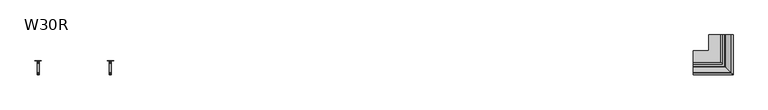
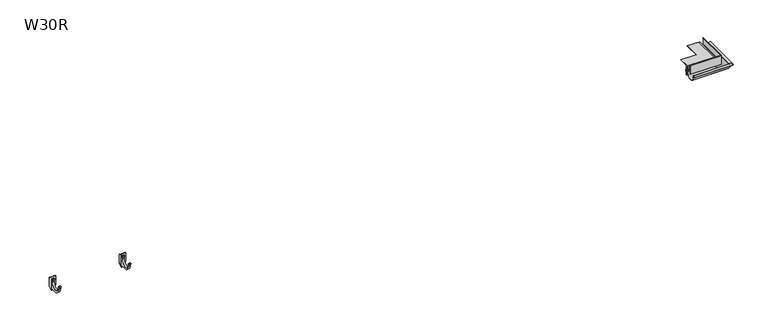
"""IFC4 building model written with IfcOpenShell, lengths in millimetres: proxy geometry, W30R Profil okapowy prosty z rynną : W30R."""

from ifc_helpers import new_model, si_unit, frame, origin, place, context, project, spatial, polyline, circle_curve, ellipse_curve, source, transform, mapped, element, save
from ifc_brep_helpers import plane_surface, cylinder_surface, revolved_surface, advanced_brep


def w30r_a8d028da(model_context):
    return source(origin(), model_context, "Body", "AdvancedBrep", [
        advanced_brep(
        [(806.4889281, -43.253125, -67.3579557), (806.4889281, 31.746875, -67.3579557), (806.4889281, 33.746875, -48.4650699), (806.4889281, 28.3326614, -49.0508489), (806.4889281, 26.9184479, -50.4650625), (806.4889281, 25.5042343, -49.0508489), (806.4889281, 26.9184479, -47.6366354), (806.4889281, 29.746875, -46.4650625), (806.4889281, 39.746875, -46.4650625), (806.4889281, 39.746875, -121.4650625), (806.4889281, -11.253125, -121.4654849), (806.4889281, -45.753125, -76.6748546), (806.4889281, -45.753125, -62.0548341), (806.4889281, -45.753125, -58.4654849), (806.4889281, -54.253125, -58.4654849), (806.4889281, -54.253125, -56.4654849), (806.4889281, -44.253125, -56.4654849), (806.4889281, -43.253125, -57.4654849), (821.4889281, -43.253125, -67.3579557), (821.4889281, -43.253125, -57.4654849), (821.4889281, -44.253125, -56.4654849), (821.4889281, -54.253125, -56.4654849), (821.4889281, -54.253125, -58.4654849), (821.4889281, -45.753125, -58.4654849), (821.4889281, -45.753125, -62.0548341), (821.4889281, -45.753125, -76.6748546), (821.4889281, -11.253125, -121.4654849), (821.4889281, 39.746875, -121.4650625), (821.4889281, 39.746875, -46.4650625), (821.4889281, 29.746875, -46.4650625), (821.4889281, 26.9184479, -47.6366354), (821.4889281, 25.5042343, -49.0508489), (821.4889281, 26.9184479, -50.4650625), (821.4889281, 28.3326614, -49.0508489), (821.4889281, 33.746875, -48.4650699), (821.4889281, 31.746875, -67.3579557), (833.4889281, 39.746875, -33.4650625), (794.4889281, 39.746875, -33.4650625), (791.4889281, 39.746875, -36.4650625), (791.4889281, 39.746875, -98.4650625), (805.7196973, 39.746875, -132.6189087), (808.4889281, 39.746875, -134.4650625), (819.4889281, 39.746875, -134.4650625), (822.2581588, 39.746875, -132.6189087), (836.4889281, 39.746875, -98.4650625), (836.4889281, 39.746875, -36.4650625), (833.4889281, 41.746875, -33.4650625), (836.4889281, 41.746875, -36.4650625), (836.4889281, 41.746875, -98.4650625), (822.2581588, 41.746875, -132.6189087), (819.4889281, 41.746875, -134.4650625), (808.4889281, 41.746875, -134.4650625), (805.7196973, 41.746875, -132.6189087), (791.4889281, 41.746875, -98.4650625), (791.4889281, 41.746875, -36.4650625), (794.4889281, 41.746875, -33.4650625)],
        [
            (0, 1, circle_curve(frame((806.4889281, -5.753125, -67.3579557), z_axis=(1.0, 0.0, 0.0), x_axis=(0.0, -1.0, 0.0)), 37.5)),
            (1, 2),
            (2, 3, circle_curve(frame((806.4889281, 32.9075381, -66.0213045), z_axis=(1.0, 0.0, 0.0), x_axis=(0.0, -1.0, 0.0)), 17.5762868)),
            (3, 4),
            (4, 5, circle_curve(frame((806.4889281, 26.2113411, -49.7579557), z_axis=(-1.0, 0.0, 0.0), x_axis=(0.0, -1.0, 0.0)), 1.0)),
            (5, 6),
            (6, 7, circle_curve(frame((806.4889281, 29.746875, -50.4650625), z_axis=(-1.0, 0.0, 0.0), x_axis=(0.0, -1.0, 0.0)), 4.0)),
            (7, 8),
            (8, 9),
            (9, 10),
            (10, 11, circle_curve(frame((806.4889281, 6.9272146, -71.7799373), z_axis=(-1.0, 0.0, 0.0), x_axis=(0.0, -1.0, 0.0)), 52.9072622)),
            (11, 12),
            (12, 13),
            (13, 14),
            (14, 15, circle_curve(frame((806.4889281, -54.253125, -57.4654849), z_axis=(-1.0, 0.0, 0.0), x_axis=(0.0, -1.0, 0.0)), 1.0)),
            (15, 16),
            (16, 17, circle_curve(frame((806.4889281, -44.253125, -57.4654849), z_axis=(-1.0, 0.0, 0.0), x_axis=(0.0, -1.0, 0.0)), 1.0)),
            (17, 0),
            (18, 19),
            (19, 20, circle_curve(frame((821.4889281, -44.253125, -57.4654849), z_axis=(1.0, 0.0, 0.0), x_axis=(0.0, -1.0, 0.0)), 1.0)),
            (20, 21),
            (21, 22, circle_curve(frame((821.4889281, -54.253125, -57.4654849), z_axis=(1.0, 0.0, 0.0), x_axis=(0.0, -1.0, 0.0)), 1.0)),
            (22, 23),
            (23, 24),
            (24, 25),
            (25, 26, circle_curve(frame((821.4889281, 6.9272146, -71.7799373), z_axis=(1.0, 0.0, 0.0), x_axis=(0.0, -1.0, 0.0)), 52.9072622)),
            (26, 27),
            (27, 28),
            (28, 29),
            (29, 30, circle_curve(frame((821.4889281, 29.746875, -50.4650625), z_axis=(1.0, 0.0, 0.0), x_axis=(0.0, -1.0, 0.0)), 4.0)),
            (30, 31),
            (31, 32, circle_curve(frame((821.4889281, 26.2113411, -49.7579557), z_axis=(1.0, 0.0, 0.0), x_axis=(0.0, -1.0, 0.0)), 1.0)),
            (32, 33),
            (33, 34, circle_curve(frame((821.4889281, 32.9075381, -66.0213045), z_axis=(-1.0, 0.0, 0.0), x_axis=(0.0, -1.0, 0.0)), 17.5762868)),
            (34, 35),
            (35, 18, circle_curve(frame((821.4889281, -5.753125, -67.3579557), z_axis=(-1.0, 0.0, 0.0), x_axis=(0.0, -1.0, 0.0)), 37.5)),
            (17, 19),
            (18, 0),
            (16, 20),
            (15, 21),
            (14, 22),
            (13, 23),
            (12, 24),
            (11, 25),
            (10, 26),
            (9, 27),
            (7, 29),
            (28, 8),
            (6, 30),
            (5, 31),
            (4, 32),
            (3, 33),
            (2, 34),
            (1, 35),
            (36, 37),
            (37, 38, circle_curve(frame((794.4889281, 39.746875, -36.4650625), z_axis=(0.0, -1.0, 0.0), x_axis=(1.0, 0.0, 0.0)), 3.0)),
            (38, 39),
            (39, 40),
            (40, 41, circle_curve(frame((808.4889281, 39.746875, -131.4650625), z_axis=(0.0, -1.0, 0.0), x_axis=(1.0, 0.0, 0.0)), 3.0)),
            (41, 42),
            (42, 43, circle_curve(frame((819.4889281, 39.746875, -131.4650625), z_axis=(0.0, -1.0, 0.0), x_axis=(1.0, 0.0, 0.0)), 3.0)),
            (43, 44),
            (44, 45),
            (45, 36, circle_curve(frame((833.4889281, 39.746875, -36.4650625), z_axis=(0.0, -1.0, 0.0), x_axis=(1.0, 0.0, 0.0)), 3.0)),
            (46, 47, circle_curve(frame((833.4889281, 41.746875, -36.4650625), z_axis=(0.0, 1.0, 0.0), x_axis=(1.0, 0.0, 0.0)), 3.0)),
            (47, 48),
            (48, 49),
            (49, 50, circle_curve(frame((819.4889281, 41.746875, -131.4650625), z_axis=(0.0, 1.0, 0.0), x_axis=(1.0, 0.0, 0.0)), 3.0)),
            (50, 51),
            (51, 52, circle_curve(frame((808.4889281, 41.746875, -131.4650625), z_axis=(0.0, 1.0, 0.0), x_axis=(1.0, 0.0, 0.0)), 3.0)),
            (52, 53),
            (53, 54),
            (54, 55, circle_curve(frame((794.4889281, 41.746875, -36.4650625), z_axis=(0.0, 1.0, 0.0), x_axis=(1.0, 0.0, 0.0)), 3.0)),
            (55, 46),
            (36, 46),
            (55, 37),
            (54, 38),
            (53, 39),
            (52, 40),
            (51, 41),
            (50, 42),
            (49, 43),
            (48, 44),
            (47, 45),
        ],
        [
            plane_surface(frame((806.4889281, -43.253125, -57.4654849), z_axis=(-1.0, 0.0, 0.0), x_axis=(0.0, 0.0, -1.0))),
            plane_surface(frame((821.4889281, -43.253125, -57.4654849), z_axis=(1.0, 0.0, 0.0), x_axis=(0.0, 0.0, 1.0))),
            plane_surface(frame((821.4889281, -43.253125, -67.3579557), z_axis=(0.0, 1.0, 0.0), x_axis=(-1.0, 0.0, 0.0))),
            cylinder_surface(frame((806.4889281, -44.253125, -57.4654849), z_axis=(1.0, 0.0, 0.0), x_axis=(0.0, -1.0, 0.0)), 1.0),
            plane_surface(frame((821.4889281, -44.253125, -56.4654849), z_axis=(0.0, 0.0, 1.0), x_axis=(-1.0, 0.0, 0.0))),
            cylinder_surface(frame((806.4889281, -54.253125, -57.4654849), z_axis=(1.0, 0.0, 0.0), x_axis=(0.0, -1.0, 0.0)), 1.0),
            plane_surface(frame((821.4889281, -54.253125, -58.4654849), z_axis=(0.0, 0.0, -1.0), x_axis=(-1.0, 0.0, 0.0))),
            plane_surface(frame((821.4889281, -45.753125, -58.4654849), z_axis=(0.0, -1.0, 0.0), x_axis=(-1.0, 0.0, 0.0))),
            plane_surface(frame((821.4889281, -45.753125, -62.0548341), z_axis=(0.0, -1.0, 0.0), x_axis=(-1.0, 0.0, 0.0))),
            cylinder_surface(frame((806.4889281, 6.9272146, -71.7799373), z_axis=(1.0, 0.0, 0.0), x_axis=(0.0, -1.0, 0.0)), 52.9072622),
            plane_surface(frame((821.4889281, -11.253125, -121.4654849), z_axis=(0.0, 8.283194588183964e-06, -0.9999999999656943), x_axis=(-1.0, 0.0, 0.0))),
            plane_surface(frame((821.4889281, 40.7901639, -46.4650625), z_axis=(0.0, 0.0, 1.0), x_axis=(-1.0, 0.0, 0.0))),
            cylinder_surface(frame((806.4889281, 29.746875, -50.4650625), z_axis=(1.0, 0.0, 0.0), x_axis=(0.0, -1.0, 0.0)), 4.0),
            plane_surface(frame((821.4889281, 26.9184479, -47.6366354), z_axis=(0.0, -0.7071067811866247, 0.7071067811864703), x_axis=(-1.0, 0.0, 0.0))),
            cylinder_surface(frame((806.4889281, 26.2113411, -49.7579557), z_axis=(1.0, 0.0, 0.0), x_axis=(0.0, -1.0, 0.0)), 1.0),
            plane_surface(frame((821.4889281, 26.9184479, -50.4650625), z_axis=(0.0, 0.7071067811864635, -0.7071067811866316), x_axis=(-1.0, 0.0, 0.0))),
            revolved_surface(polyline([(806.4889281, 15.331251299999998, -66.0213045), (821.4889281, 15.331251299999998, -66.0213045)]), (806.4889281, 32.9075381, -66.0213045), (-1.0, 0.0, 0.0)),
            plane_surface(frame((821.4889281, 33.746875, -48.4650699), z_axis=(0.0, -0.9944434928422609, 0.10527174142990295), x_axis=(-1.0, 0.0, 0.0))),
            revolved_surface(polyline([(806.4889281, -43.253125, -67.3579557), (821.4889281, -43.253125, -67.3579557)]), (806.4889281, -5.753125, -67.3579557), (-1.0, 0.0, 0.0)),
            plane_surface(frame((794.4889281, 39.746875, -33.4650625), z_axis=(0.0, -1.0, 0.0), x_axis=(-1.0, 0.0, 0.0))),
            plane_surface(frame((794.4889281, 41.746875, -33.4650625), z_axis=(0.0, 1.0, 0.0), x_axis=(1.0, 0.0, 0.0))),
            plane_surface(frame((833.4889281, 39.746875, -33.4650625), z_axis=(0.0, 0.0, 1.0), x_axis=(0.0, 1.0, 0.0))),
            cylinder_surface(frame((794.4889281, 41.746875, -36.4650625), z_axis=(0.0, -1.0, 0.0), x_axis=(1.0, 0.0, 0.0)), 3.0),
            plane_surface(frame((791.4889281, 39.746875, -36.4650625), z_axis=(-1.0, 0.0, 0.0), x_axis=(0.0, 1.0, 0.0))),
            plane_surface(frame((791.4889281, 39.746875, -98.4650625), z_axis=(-0.9230769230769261, 0.0, -0.38461538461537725), x_axis=(0.0, 1.0, 0.0))),
            cylinder_surface(frame((808.4889281, 41.746875, -131.4650625), z_axis=(0.0, -1.0, 0.0), x_axis=(1.0, 0.0, 0.0)), 3.0),
            plane_surface(frame((808.4889281, 39.746875, -134.4650625), z_axis=(0.0, 0.0, -1.0), x_axis=(0.0, 1.0, 0.0))),
            cylinder_surface(frame((819.4889281, 41.746875, -131.4650625), z_axis=(0.0, -1.0, 0.0), x_axis=(1.0, 0.0, 0.0)), 3.0),
            plane_surface(frame((822.2581588, 39.746875, -132.6189087), z_axis=(0.9230769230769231, 0.0, -0.3846153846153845), x_axis=(0.0, 1.0, 0.0))),
            plane_surface(frame((836.4889281, 39.746875, -98.4650625), z_axis=(1.0, 0.0, 0.0), x_axis=(0.0, 1.0, 0.0))),
            cylinder_surface(frame((833.4889281, 41.746875, -36.4650625), z_axis=(0.0, -1.0, 0.0), x_axis=(1.0, 0.0, 0.0)), 3.0),
        ],
        [
            (0, [[1, 2, 3, 4, 5, 6, 7, 8, 9, 10, 11, 12, 13, 14, 15, 16, 17, 18]]),
            (1, [[19, 20, 21, 22, 23, 24, 25, 26, 27, 28, 29, 30, 31, 32, 33, 34, 35, 36]]),
            (2, [[-18, 37, -19, 38]]),
            (3, [[-17, 39, -20, -37]]),
            (4, [[-16, 40, -21, -39]]),
            (5, [[-15, 41, -22, -40]]),
            (6, [[-14, 42, -23, -41]]),
            (7, [[-13, 43, -24, -42]]),
            (8, [[-12, 44, -25, -43]]),
            (9, [[-11, 45, -26, -44]]),
            (10, [[-45, -10, 46, -27]]),
            (11, [[47, -29, 48, -8]]),
            (12, [[-7, 49, -30, -47]]),
            (13, [[-6, 50, -31, -49]]),
            (14, [[-5, 51, -32, -50]]),
            (15, [[-4, 52, -33, -51]]),
            (16, [[-3, 53, -34, -52]]),
            (17, [[-2, 54, -35, -53]]),
            (18, [[-1, -38, -36, -54]]),
            (19, [[55, 56, 57, 58, 59, 60, 61, 62, 63, 64], [-9, -48, -28, -46]]),
            (20, [[65, 66, 67, 68, 69, 70, 71, 72, 73, 74]]),
            (21, [[-55, 75, -74, 76]]),
            (22, [[-56, -76, -73, 77]]),
            (23, [[-57, -77, -72, 78]]),
            (24, [[-58, -78, -71, 79]]),
            (25, [[-59, -79, -70, 80]]),
            (26, [[-60, -80, -69, 81]]),
            (27, [[-61, -81, -68, 82]]),
            (28, [[-62, -82, -67, 83]]),
            (29, [[-63, -83, -66, 84]]),
            (30, [[-64, -84, -65, -75]]),
        ],
    ),
        advanced_brep(
        [(306.4889281, -43.253125, -67.3579557), (306.4889281, 31.746875, -67.3579557), (306.4889281, 33.746875, -48.4650699), (306.4889281, 28.3326614, -49.0508489), (306.4889281, 26.9184479, -50.4650625), (306.4889281, 25.5042343, -49.0508489), (306.4889281, 26.9184479, -47.6366354), (306.4889281, 29.746875, -46.4650625), (306.4889281, 39.746875, -46.4650625), (306.4889281, 39.746875, -121.4650625), (306.4889281, -11.253125, -121.4654849), (306.4889281, -45.753125, -76.6748546), (306.4889281, -45.753125, -62.0548341), (306.4889281, -45.753125, -58.4654849), (306.4889281, -54.253125, -58.4654849), (306.4889281, -54.253125, -56.4654849), (306.4889281, -44.253125, -56.4654849), (306.4889281, -43.253125, -57.4654849), (321.4889281, -43.253125, -67.3579557), (321.4889281, -43.253125, -57.4654849), (321.4889281, -44.253125, -56.4654849), (321.4889281, -54.253125, -56.4654849), (321.4889281, -54.253125, -58.4654849), (321.4889281, -45.753125, -58.4654849), (321.4889281, -45.753125, -62.0548341), (321.4889281, -45.753125, -76.6748546), (321.4889281, -11.253125, -121.4654849), (321.4889281, 39.746875, -121.4650625), (321.4889281, 39.746875, -46.4650625), (321.4889281, 29.746875, -46.4650625), (321.4889281, 26.9184479, -47.6366354), (321.4889281, 25.5042343, -49.0508489), (321.4889281, 26.9184479, -50.4650625), (321.4889281, 28.3326614, -49.0508489), (321.4889281, 33.746875, -48.4650699), (321.4889281, 31.746875, -67.3579557), (333.4889281, 39.746875, -33.4650625), (294.4889281, 39.746875, -33.4650625), (291.4889281, 39.746875, -36.4650625), (291.4889281, 39.746875, -98.4650625), (305.7196973, 39.746875, -132.6189087), (308.4889281, 39.746875, -134.4650625), (319.4889281, 39.746875, -134.4650625), (322.2581588, 39.746875, -132.6189087), (336.4889281, 39.746875, -98.4650625), (336.4889281, 39.746875, -36.4650625), (333.4889281, 41.746875, -33.4650625), (336.4889281, 41.746875, -36.4650625), (336.4889281, 41.746875, -98.4650625), (322.2581588, 41.746875, -132.6189087), (319.4889281, 41.746875, -134.4650625), (308.4889281, 41.746875, -134.4650625), (305.7196973, 41.746875, -132.6189087), (291.4889281, 41.746875, -98.4650625), (291.4889281, 41.746875, -36.4650625), (294.4889281, 41.746875, -33.4650625)],
        [
            (0, 1, circle_curve(frame((306.4889281, -5.753125, -67.3579557), z_axis=(1.0, 0.0, 0.0), x_axis=(0.0, -1.0, 0.0)), 37.5)),
            (1, 2),
            (2, 3, circle_curve(frame((306.4889281, 32.9075381, -66.0213045), z_axis=(1.0, 0.0, 0.0), x_axis=(0.0, -1.0, 0.0)), 17.5762868)),
            (3, 4),
            (4, 5, circle_curve(frame((306.4889281, 26.2113411, -49.7579557), z_axis=(-1.0, 0.0, 0.0), x_axis=(0.0, -1.0, 0.0)), 1.0)),
            (5, 6),
            (6, 7, circle_curve(frame((306.4889281, 29.746875, -50.4650625), z_axis=(-1.0, 0.0, 0.0), x_axis=(0.0, -1.0, 0.0)), 4.0)),
            (7, 8),
            (8, 9),
            (9, 10),
            (10, 11, circle_curve(frame((306.4889281, 6.9272146, -71.7799373), z_axis=(-1.0, 0.0, 0.0), x_axis=(0.0, -1.0, 0.0)), 52.9072622)),
            (11, 12),
            (12, 13),
            (13, 14),
            (14, 15, circle_curve(frame((306.4889281, -54.253125, -57.4654849), z_axis=(-1.0, 0.0, 0.0), x_axis=(0.0, -1.0, 0.0)), 1.0)),
            (15, 16),
            (16, 17, circle_curve(frame((306.4889281, -44.253125, -57.4654849), z_axis=(-1.0, 0.0, 0.0), x_axis=(0.0, -1.0, 0.0)), 1.0)),
            (17, 0),
            (18, 19),
            (19, 20, circle_curve(frame((321.4889281, -44.253125, -57.4654849), z_axis=(1.0, 0.0, 0.0), x_axis=(0.0, -1.0, 0.0)), 1.0)),
            (20, 21),
            (21, 22, circle_curve(frame((321.4889281, -54.253125, -57.4654849), z_axis=(1.0, 0.0, 0.0), x_axis=(0.0, -1.0, 0.0)), 1.0)),
            (22, 23),
            (23, 24),
            (24, 25),
            (25, 26, circle_curve(frame((321.4889281, 6.9272146, -71.7799373), z_axis=(1.0, 0.0, 0.0), x_axis=(0.0, -1.0, 0.0)), 52.9072622)),
            (26, 27),
            (27, 28),
            (28, 29),
            (29, 30, circle_curve(frame((321.4889281, 29.746875, -50.4650625), z_axis=(1.0, 0.0, 0.0), x_axis=(0.0, -1.0, 0.0)), 4.0)),
            (30, 31),
            (31, 32, circle_curve(frame((321.4889281, 26.2113411, -49.7579557), z_axis=(1.0, 0.0, 0.0), x_axis=(0.0, -1.0, 0.0)), 1.0)),
            (32, 33),
            (33, 34, circle_curve(frame((321.4889281, 32.9075381, -66.0213045), z_axis=(-1.0, 0.0, 0.0), x_axis=(0.0, -1.0, 0.0)), 17.5762868)),
            (34, 35),
            (35, 18, circle_curve(frame((321.4889281, -5.753125, -67.3579557), z_axis=(-1.0, 0.0, 0.0), x_axis=(0.0, -1.0, 0.0)), 37.5)),
            (17, 19),
            (18, 0),
            (16, 20),
            (15, 21),
            (14, 22),
            (13, 23),
            (12, 24),
            (11, 25),
            (10, 26),
            (9, 27),
            (7, 29),
            (28, 8),
            (6, 30),
            (5, 31),
            (4, 32),
            (3, 33),
            (2, 34),
            (1, 35),
            (36, 37),
            (37, 38, circle_curve(frame((294.4889281, 39.746875, -36.4650625), z_axis=(0.0, -1.0, 0.0), x_axis=(1.0, 0.0, 0.0)), 3.0)),
            (38, 39),
            (39, 40),
            (40, 41, circle_curve(frame((308.4889281, 39.746875, -131.4650625), z_axis=(0.0, -1.0, 0.0), x_axis=(1.0, 0.0, 0.0)), 3.0)),
            (41, 42),
            (42, 43, circle_curve(frame((319.4889281, 39.746875, -131.4650625), z_axis=(0.0, -1.0, 0.0), x_axis=(1.0, 0.0, 0.0)), 3.0)),
            (43, 44),
            (44, 45),
            (45, 36, circle_curve(frame((333.4889281, 39.746875, -36.4650625), z_axis=(0.0, -1.0, 0.0), x_axis=(1.0, 0.0, 0.0)), 3.0)),
            (46, 47, circle_curve(frame((333.4889281, 41.746875, -36.4650625), z_axis=(0.0, 1.0, 0.0), x_axis=(1.0, 0.0, 0.0)), 3.0)),
            (47, 48),
            (48, 49),
            (49, 50, circle_curve(frame((319.4889281, 41.746875, -131.4650625), z_axis=(0.0, 1.0, 0.0), x_axis=(1.0, 0.0, 0.0)), 3.0)),
            (50, 51),
            (51, 52, circle_curve(frame((308.4889281, 41.746875, -131.4650625), z_axis=(0.0, 1.0, 0.0), x_axis=(1.0, 0.0, 0.0)), 3.0)),
            (52, 53),
            (53, 54),
            (54, 55, circle_curve(frame((294.4889281, 41.746875, -36.4650625), z_axis=(0.0, 1.0, 0.0), x_axis=(1.0, 0.0, 0.0)), 3.0)),
            (55, 46),
            (36, 46),
            (55, 37),
            (54, 38),
            (53, 39),
            (52, 40),
            (51, 41),
            (50, 42),
            (49, 43),
            (48, 44),
            (47, 45),
        ],
        [
            plane_surface(frame((306.4889281, -43.253125, -57.4654849), z_axis=(-1.0, 0.0, 0.0), x_axis=(0.0, 0.0, -1.0))),
            plane_surface(frame((321.4889281, -43.253125, -57.4654849), z_axis=(1.0, 0.0, 0.0), x_axis=(0.0, 0.0, 1.0))),
            plane_surface(frame((321.4889281, -43.253125, -67.3579557), z_axis=(0.0, 1.0, 0.0), x_axis=(-1.0, 0.0, 0.0))),
            cylinder_surface(frame((306.4889281, -44.253125, -57.4654849), z_axis=(1.0, 0.0, 0.0), x_axis=(0.0, -1.0, 0.0)), 1.0),
            plane_surface(frame((321.4889281, -44.253125, -56.4654849), z_axis=(0.0, 0.0, 1.0), x_axis=(-1.0, 0.0, 0.0))),
            cylinder_surface(frame((306.4889281, -54.253125, -57.4654849), z_axis=(1.0, 0.0, 0.0), x_axis=(0.0, -1.0, 0.0)), 1.0),
            plane_surface(frame((321.4889281, -54.253125, -58.4654849), z_axis=(0.0, 0.0, -1.0), x_axis=(-1.0, 0.0, 0.0))),
            plane_surface(frame((321.4889281, -45.753125, -58.4654849), z_axis=(0.0, -1.0, 0.0), x_axis=(-1.0, 0.0, 0.0))),
            plane_surface(frame((321.4889281, -45.753125, -62.0548341), z_axis=(0.0, -1.0, 0.0), x_axis=(-1.0, 0.0, 0.0))),
            cylinder_surface(frame((306.4889281, 6.9272146, -71.7799373), z_axis=(1.0, 0.0, 0.0), x_axis=(0.0, -1.0, 0.0)), 52.9072622),
            plane_surface(frame((321.4889281, -11.253125, -121.4654849), z_axis=(0.0, 8.283194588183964e-06, -0.9999999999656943), x_axis=(-1.0, 0.0, 0.0))),
            plane_surface(frame((321.4889281, 40.7901639, -46.4650625), z_axis=(0.0, 0.0, 1.0), x_axis=(-1.0, 0.0, 0.0))),
            cylinder_surface(frame((306.4889281, 29.746875, -50.4650625), z_axis=(1.0, 0.0, 0.0), x_axis=(0.0, -1.0, 0.0)), 4.0),
            plane_surface(frame((321.4889281, 26.9184479, -47.6366354), z_axis=(0.0, -0.7071067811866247, 0.7071067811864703), x_axis=(-1.0, 0.0, 0.0))),
            cylinder_surface(frame((306.4889281, 26.2113411, -49.7579557), z_axis=(1.0, 0.0, 0.0), x_axis=(0.0, -1.0, 0.0)), 1.0),
            plane_surface(frame((321.4889281, 26.9184479, -50.4650625), z_axis=(0.0, 0.7071067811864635, -0.7071067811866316), x_axis=(-1.0, 0.0, 0.0))),
            revolved_surface(polyline([(306.4889281, 15.331251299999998, -66.0213045), (321.4889281, 15.331251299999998, -66.0213045)]), (306.4889281, 32.9075381, -66.0213045), (-1.0, 0.0, 0.0)),
            plane_surface(frame((321.4889281, 33.746875, -48.4650699), z_axis=(0.0, -0.9944434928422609, 0.10527174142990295), x_axis=(-1.0, 0.0, 0.0))),
            revolved_surface(polyline([(306.4889281, -43.253125, -67.3579557), (321.4889281, -43.253125, -67.3579557)]), (306.4889281, -5.753125, -67.3579557), (-1.0, 0.0, 0.0)),
            plane_surface(frame((294.4889281, 39.746875, -33.4650625), z_axis=(0.0, -1.0, 0.0), x_axis=(-1.0, 0.0, 0.0))),
            plane_surface(frame((294.4889281, 41.746875, -33.4650625), z_axis=(0.0, 1.0, 0.0), x_axis=(1.0, 0.0, 0.0))),
            plane_surface(frame((333.4889281, 39.746875, -33.4650625), z_axis=(0.0, 0.0, 1.0), x_axis=(0.0, 1.0, 0.0))),
            cylinder_surface(frame((294.4889281, 41.746875, -36.4650625), z_axis=(0.0, -1.0, 0.0), x_axis=(1.0, 0.0, 0.0)), 3.0),
            plane_surface(frame((291.4889281, 39.746875, -36.4650625), z_axis=(-1.0, 0.0, 0.0), x_axis=(0.0, 1.0, 0.0))),
            plane_surface(frame((291.4889281, 39.746875, -98.4650625), z_axis=(-0.9230769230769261, 0.0, -0.38461538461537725), x_axis=(0.0, 1.0, 0.0))),
            cylinder_surface(frame((308.4889281, 41.746875, -131.4650625), z_axis=(0.0, -1.0, 0.0), x_axis=(1.0, 0.0, 0.0)), 3.0),
            plane_surface(frame((308.4889281, 39.746875, -134.4650625), z_axis=(0.0, 0.0, -1.0), x_axis=(0.0, 1.0, 0.0))),
            cylinder_surface(frame((319.4889281, 41.746875, -131.4650625), z_axis=(0.0, -1.0, 0.0), x_axis=(1.0, 0.0, 0.0)), 3.0),
            plane_surface(frame((322.2581588, 39.746875, -132.6189087), z_axis=(0.9230769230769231, 0.0, -0.3846153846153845), x_axis=(0.0, 1.0, 0.0))),
            plane_surface(frame((336.4889281, 39.746875, -98.4650625), z_axis=(1.0, 0.0, 0.0), x_axis=(0.0, 1.0, 0.0))),
            cylinder_surface(frame((333.4889281, 41.746875, -36.4650625), z_axis=(0.0, -1.0, 0.0), x_axis=(1.0, 0.0, 0.0)), 3.0),
        ],
        [
            (0, [[1, 2, 3, 4, 5, 6, 7, 8, 9, 10, 11, 12, 13, 14, 15, 16, 17, 18]]),
            (1, [[19, 20, 21, 22, 23, 24, 25, 26, 27, 28, 29, 30, 31, 32, 33, 34, 35, 36]]),
            (2, [[-18, 37, -19, 38]]),
            (3, [[-17, 39, -20, -37]]),
            (4, [[-16, 40, -21, -39]]),
            (5, [[-15, 41, -22, -40]]),
            (6, [[-14, 42, -23, -41]]),
            (7, [[-13, 43, -24, -42]]),
            (8, [[-12, 44, -25, -43]]),
            (9, [[-11, 45, -26, -44]]),
            (10, [[-45, -10, 46, -27]]),
            (11, [[47, -29, 48, -8]]),
            (12, [[-7, 49, -30, -47]]),
            (13, [[-6, 50, -31, -49]]),
            (14, [[-5, 51, -32, -50]]),
            (15, [[-4, 52, -33, -51]]),
            (16, [[-3, 53, -34, -52]]),
            (17, [[-2, 54, -35, -53]]),
            (18, [[-1, -38, -36, -54]]),
            (19, [[55, 56, 57, 58, 59, 60, 61, 62, 63, 64], [-9, -48, -28, -46]]),
            (20, [[65, 66, 67, 68, 69, 70, 71, 72, 73, 74]]),
            (21, [[-55, 75, -74, 76]]),
            (22, [[-56, -76, -73, 77]]),
            (23, [[-57, -77, -72, 78]]),
            (24, [[-58, -78, -71, 79]]),
            (25, [[-59, -79, -70, 80]]),
            (26, [[-60, -80, -69, 81]]),
            (27, [[-61, -81, -68, 82]]),
            (28, [[-62, -82, -67, 83]]),
            (29, [[-63, -83, -66, 84]]),
            (30, [[-64, -84, -65, -75]]),
        ],
    ),
        advanced_brep(
        [(4851.7711746, -43.2400001, -67.3590487), (4851.7711746, -43.2400001, -57.765002), (4851.7711746, -52.4076128, -62.3703774), (4851.7711746, -52.4076128, -63.5045042), (4851.7711746, -42.2400118, -57.8161631), (4851.7711746, -42.2400118, -67.3415731), (4851.7711746, 30.7599916, -67.3415731), (4851.7711746, 32.6506561, -49.4483099), (4851.7711746, 28.8610307, -49.9509113), (4851.7711746, 23.73726, -55.074682), (4851.7711746, 23.0301532, -54.3675752), (4851.7711746, 28.3457864, -49.051942), (4851.7711746, 33.76, -48.466163), (4851.7711746, 31.76, -67.3590487), (5115.0111746, 220.0, -67.3590487), (5040.0111746, 220.0, -67.3590487), (5038.0111746, 220.0, -48.466163), (5043.4253881, 220.0, -49.051942), (5048.7410214, 220.0, -54.3675752), (5048.0339146, 220.0, -55.074682), (5042.9101439, 220.0, -49.9509113), (5039.1205185, 220.0, -49.4483099), (5041.0111829, 220.0, -67.3415731), (5114.0111863, 220.0, -67.3415731), (5114.0111863, 220.0, -57.8161631), (5124.1787874, 220.0, -63.5045042), (5124.1787874, 220.0, -62.3703774), (5115.0111746, 220.0, -57.765002), (5040.0111746, 31.76, -67.3590487), (5115.0111746, -43.2400001, -67.3590487), (5038.0111746, 33.76, -48.466163), (5043.4253881, 28.3457864, -49.051942), (5048.7410214, 23.0301532, -54.3675752), (5048.0339146, 23.73726, -55.074682), (5042.9101439, 28.8610307, -49.9509113), (5039.1205185, 32.6506561, -49.4483099), (5041.0111829, 30.7599916, -67.3415731), (5114.0111863, -42.2400118, -67.3415731), (5114.0111863, -42.2400118, -57.8161631), (5124.1787874, -52.4076128, -63.5045042), (5124.1787874, -52.4076128, -62.3703774), (5115.0111746, -43.2400001, -57.765002)],
        [
            (0, 1),
            (1, 2, circle_curve(frame((4851.7711746, -49.305591, -57.1180003), z_axis=(1.0, 0.0, 0.0), x_axis=(0.0, -1.0, 0.0)), 6.1000004)),
            (2, 3),
            (3, 4, circle_curve(frame((4851.7711746, -49.3055965, -57.118002), z_axis=(-1.0, 0.0, 0.0), x_axis=(0.0, -1.0, 0.0)), 7.0999941)),
            (4, 5),
            (5, 6, circle_curve(frame((4851.7711746, -5.7400101, -67.3415731), z_axis=(1.0, 0.0, 0.0), x_axis=(0.0, -1.0, 0.0)), 36.5000017)),
            (6, 7),
            (7, 8, circle_curve(frame((4851.7711746, 32.9206631, -66.0223975), z_axis=(1.0, 0.0, 0.0), x_axis=(0.0, -1.0, 0.0)), 16.5762868)),
            (8, 9),
            (9, 10),
            (10, 11),
            (11, 12, circle_curve(frame((4851.7711746, 32.9206631, -66.0223975), z_axis=(-1.0, 0.0, 0.0), x_axis=(0.0, -1.0, 0.0)), 17.5762868)),
            (12, 13),
            (13, 0, circle_curve(frame((4851.7711746, -5.74, -67.3590487), z_axis=(-1.0, 0.0, 0.0), x_axis=(0.0, -1.0, 0.0)), 37.5)),
            (14, 15, circle_curve(frame((5077.5111746, 220.0, -67.3590487), z_axis=(0.0, 1.0, 0.0), x_axis=(1.0, 0.0, 0.0)), 37.5)),
            (15, 16),
            (16, 17, circle_curve(frame((5038.8505115, 220.0, -66.0223975), z_axis=(0.0, 1.0, 0.0), x_axis=(1.0, 0.0, 0.0)), 17.5762868)),
            (17, 18),
            (18, 19),
            (19, 20),
            (20, 21, circle_curve(frame((5038.8505115, 220.0, -66.0223975), z_axis=(0.0, -1.0, 0.0), x_axis=(1.0, 0.0, 0.0)), 16.5762868)),
            (21, 22),
            (22, 23, circle_curve(frame((5077.5111846, 220.0, -67.3415731), z_axis=(0.0, -1.0, 0.0), x_axis=(1.0, 0.0, 0.0)), 36.5000017)),
            (23, 24),
            (24, 25, circle_curve(frame((5121.076771, 220.0, -57.118002), z_axis=(0.0, 1.0, 0.0), x_axis=(1.0, 0.0, 0.0)), 7.0999941)),
            (25, 26),
            (26, 27, circle_curve(frame((5121.0767656, 220.0, -57.1180003), z_axis=(0.0, -1.0, 0.0), x_axis=(1.0, 0.0, 0.0)), 6.1000004)),
            (27, 14),
            (13, 28),
            (28, 29, ellipse_curve(frame((5077.5111746, -5.74, -67.3590487), z_axis=(-0.7071067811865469, -0.7071067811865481, 0.0), x_axis=(-0.7071067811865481, 0.7071067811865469, 0.0)), 53.0330086, 37.5)),
            (29, 0),
            (12, 30),
            (30, 28),
            (11, 31),
            (31, 30, ellipse_curve(frame((5038.8505115, 32.9206631, -66.0223975), z_axis=(-0.7071067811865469, -0.7071067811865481, 0.0), x_axis=(-0.7071067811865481, 0.7071067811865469, 0.0)), 24.8566232, 17.5762868)),
            (10, 32),
            (32, 31),
            (9, 33),
            (33, 32),
            (8, 34),
            (34, 33),
            (7, 35),
            (35, 34, ellipse_curve(frame((5038.8505115, 32.9206631, -66.0223975), z_axis=(0.7071067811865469, 0.7071067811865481, 0.0), x_axis=(0.7071067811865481, -0.7071067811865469, 0.0)), 23.4424096, 16.5762868)),
            (6, 36),
            (36, 35),
            (5, 37),
            (37, 36, ellipse_curve(frame((5077.5111846, -5.7400101, -67.3415731), z_axis=(0.7071067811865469, 0.7071067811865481, 0.0), x_axis=(0.7071067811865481, -0.7071067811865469, 0.0)), 51.6187974, 36.5000017)),
            (4, 38),
            (38, 37),
            (3, 39),
            (39, 38, ellipse_curve(frame((5121.076771, -49.3055965, -57.118002), z_axis=(-0.7071067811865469, -0.7071067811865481, 0.0), x_axis=(-0.7071067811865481, 0.7071067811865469, 0.0)), 10.0409079, 7.0999941)),
            (2, 40),
            (40, 39),
            (1, 41),
            (41, 40, ellipse_curve(frame((5121.0767656, -49.305591, -57.1180003), z_axis=(0.7071067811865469, 0.7071067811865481, 0.0), x_axis=(0.7071067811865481, -0.7071067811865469, 0.0)), 8.6267032, 6.1000004)),
            (29, 41),
            (28, 15),
            (14, 29),
            (30, 16),
            (31, 17),
            (32, 18),
            (33, 19),
            (34, 20),
            (35, 21),
            (36, 22),
            (37, 23),
            (38, 24),
            (39, 25),
            (40, 26),
            (41, 27),
        ],
        [
            plane_surface(frame((4851.7711746, 0.0, 0.0), z_axis=(-1.0, 0.0, 0.0), x_axis=(0.0, 0.0, 1.0))),
            plane_surface(frame((5071.7711746, 220.0, 0.0), z_axis=(0.0, 1.0, 0.0), x_axis=(0.0, 0.0, 1.0))),
            cylinder_surface(frame((4851.7711746, -5.74, -67.3590487), z_axis=(-1.0, 0.0, 0.0), x_axis=(0.0, -1.0, 0.0)), 37.5),
            plane_surface(frame((4851.7711746, 31.76, -67.3590487), z_axis=(0.0, 0.9944434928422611, -0.10527174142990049), x_axis=(1.0, 0.0, 0.0))),
            cylinder_surface(frame((4851.7711746, 32.9206631, -66.0223975), z_axis=(-1.0, 0.0, 0.0), x_axis=(0.0, -1.0, 0.0)), 17.5762868),
            plane_surface(frame((4851.7711746, 28.3457864, -49.051942), z_axis=(0.0, -0.7071067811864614, 0.7071067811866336), x_axis=(1.0, 0.0, 0.0))),
            plane_surface(frame((4851.7711746, 23.0301532, -54.3675752), z_axis=(0.0, -0.7071067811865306, -0.7071067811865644), x_axis=(1.0, 0.0, 0.0))),
            plane_surface(frame((4851.7711746, 23.73726, -55.074682), z_axis=(0.0, 0.7071067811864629, -0.7071067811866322), x_axis=(1.0, 0.0, 0.0))),
            revolved_surface(polyline([(5055.4267982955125, 16.3443763, -66.0223975), (4851.7711746, 16.3443763, -66.0223975)]), (4851.7711746, 32.9206631, -66.0223975), (1.0, 0.0, 0.0)),
            plane_surface(frame((4851.7711746, 32.6506561, -49.4483099), z_axis=(0.0, -0.994463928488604, 0.10507851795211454), x_axis=(1.0, 0.0, 0.0))),
            revolved_surface(polyline([(5114.0111863, -42.2400118, -67.3415731), (4851.7711746, -42.2400118, -67.3415731)]), (4851.7711746, -5.7400101, -67.3415731), (1.0, 0.0, 0.0)),
            plane_surface(frame((4851.7711746, -42.2400118, -67.3415731), z_axis=(0.0, 1.0, 0.0), x_axis=(1.0, 0.0, 0.0))),
            cylinder_surface(frame((4851.7711746, -49.3055965, -57.118002), z_axis=(-1.0, 0.0, 0.0), x_axis=(0.0, -1.0, 0.0)), 7.0999941),
            plane_surface(frame((4851.7711746, -52.4076128, -63.5045042), z_axis=(0.0, 1.0, 0.0), x_axis=(1.0, 0.0, 0.0))),
            revolved_surface(polyline([(5127.176765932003, -55.4055914, -57.1180003), (4851.7711746, -55.4055914, -57.1180003)]), (4851.7711746, -49.305591, -57.1180003), (1.0, 0.0, 0.0)),
            plane_surface(frame((4851.7711746, -43.2400001, -57.765002), z_axis=(0.0, -1.0, 0.0), x_axis=(1.0, 0.0, 0.0))),
            cylinder_surface(frame((5077.5111746, 0.0, -67.3590487), z_axis=(0.0, -1.0, 0.0), x_axis=(1.0, 0.0, 0.0)), 37.5),
            plane_surface(frame((5040.0111746, 31.76, -67.3590487), z_axis=(-0.9944434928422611, 0.0, -0.10527174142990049), x_axis=(0.0, 1.0, 0.0))),
            cylinder_surface(frame((5038.8505115, 0.0, -66.0223975), z_axis=(0.0, -1.0, 0.0), x_axis=(1.0, 0.0, 0.0)), 17.5762868),
            plane_surface(frame((5043.4253881, 28.3457864, -49.051942), z_axis=(0.7071067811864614, 0.0, 0.7071067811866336), x_axis=(0.0, 1.0, 0.0))),
            plane_surface(frame((5048.7410214, 23.0301532, -54.3675752), z_axis=(0.7071067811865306, 0.0, -0.7071067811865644), x_axis=(0.0, 1.0, 0.0))),
            plane_surface(frame((5048.0339146, 23.73726, -55.074682), z_axis=(-0.7071067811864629, 0.0, -0.7071067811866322), x_axis=(0.0, 1.0, 0.0))),
            revolved_surface(polyline([(5055.4267983, 220.0, -66.0223975), (5055.4267983, 16.34437630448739, -66.0223975)]), (5038.8505115, 0.0, -66.0223975), (0.0, 1.0, 0.0)),
            plane_surface(frame((5039.1205185, 32.6506561, -49.4483099), z_axis=(0.994463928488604, 0.0, 0.10507851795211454), x_axis=(0.0, 1.0, 0.0))),
            revolved_surface(polyline([(5114.0111863, 220.0, -67.3415731), (5114.0111863, -42.2400118, -67.3415731)]), (5077.5111846, 0.0, -67.3415731), (0.0, 1.0, 0.0)),
            plane_surface(frame((5114.0111863, -42.2400118, -67.3415731), z_axis=(-1.0, 0.0, 0.0), x_axis=(0.0, 1.0, 0.0))),
            cylinder_surface(frame((5121.076771, 0.0, -57.118002), z_axis=(0.0, -1.0, 0.0), x_axis=(1.0, 0.0, 0.0)), 7.0999941),
            plane_surface(frame((5124.1787874, -52.4076128, -63.5045042), z_axis=(-1.0, 0.0, 0.0), x_axis=(0.0, 1.0, 0.0))),
            revolved_surface(polyline([(5127.176766, 220.0, -57.1180003), (5127.176766, -55.40559133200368, -57.1180003)]), (5121.0767656, 0.0, -57.1180003), (0.0, 1.0, 0.0)),
            plane_surface(frame((5115.0111746, -43.2400001, -57.765002), z_axis=(1.0, 0.0, 0.0), x_axis=(0.0, 1.0, 0.0))),
        ],
        [
            (0, [[1, 2, 3, 4, 5, 6, 7, 8, 9, 10, 11, 12, 13, 14]]),
            (1, [[15, 16, 17, 18, 19, 20, 21, 22, 23, 24, 25, 26, 27, 28]]),
            (2, [[29, 30, 31, -14]]),
            (3, [[32, 33, -29, -13]]),
            (4, [[34, 35, -32, -12]]),
            (5, [[36, 37, -34, -11]]),
            (6, [[38, 39, -36, -10]]),
            (7, [[40, 41, -38, -9]]),
            (8, [[42, 43, -40, -8]]),
            (9, [[44, 45, -42, -7]]),
            (10, [[46, 47, -44, -6]]),
            (11, [[48, 49, -46, -5]]),
            (12, [[50, 51, -48, -4]]),
            (13, [[52, 53, -50, -3]]),
            (14, [[54, 55, -52, -2]]),
            (15, [[-31, 56, -54, -1]]),
            (16, [[57, -15, 58, -30]]),
            (17, [[59, -16, -57, -33]]),
            (18, [[60, -17, -59, -35]]),
            (19, [[61, -18, -60, -37]]),
            (20, [[62, -19, -61, -39]]),
            (21, [[63, -20, -62, -41]]),
            (22, [[64, -21, -63, -43]]),
            (23, [[65, -22, -64, -45]]),
            (24, [[66, -23, -65, -47]]),
            (25, [[67, -24, -66, -49]]),
            (26, [[68, -25, -67, -51]]),
            (27, [[69, -26, -68, -53]]),
            (28, [[70, -27, -69, -55]]),
            (29, [[-58, -28, -70, -56]]),
        ],
    ),
        advanced_brep(
        [(4851.7711746, 41.76, -66.726163), (4851.7711746, 41.76, -25.926163), (4851.7711746, 31.36, -25.926163), (4851.7711746, 19.68, -37.606163), (4851.7711746, 19.68, -55.0930368), (4851.7711746, 17.76, -55.0930368), (4851.7711746, 17.76, -51.766163), (4851.7711746, -1.04, -51.766163), (4851.7711746, -1.04, -65.216302), (4851.7711746, -2.24, -66.416302), (4851.7711746, -2.24, -2.24), (4851.7711746, 0.0, 0.0), (4851.7711746, 0.0, -1.4327357), (4851.7711746, -0.8, -2.2327357), (4851.7711746, -0.8, -49.846163), (4851.7711746, 17.76, -49.846163), (4851.7711746, 17.76, -37.606163), (4851.7711746, 31.36, -24.006163), (4851.7711746, 111.68, -24.006163), (4851.7711746, 111.68, -25.926163), (4851.7711746, 43.12, -25.926163), (4851.7711746, 43.12, -61.926163), (4851.7711746, 50.32, -61.926163), (4851.7711746, 50.32, -75.526163), (4851.7711746, 43.04, -75.526163), (4851.7711746, 43.04, -97.190163), (4851.7711746, 41.76, -97.190163), (4851.7711746, 41.76, -70.726163), (4851.7711746, 43.76, -70.726163), (4851.7711746, 43.76, -74.326163), (4851.7711746, 48.96, -74.326163), (4851.7711746, 48.96, -63.126163), (4851.7711746, 43.76, -63.126163), (4851.7711746, 43.76, -66.726163), (5030.0111746, 220.0, -66.726163), (5028.0111746, 220.0, -66.726163), (5028.0111746, 220.0, -63.126163), (5022.8111746, 220.0, -63.126163), (5022.8111746, 220.0, -74.326163), (5028.0111746, 220.0, -74.326163), (5028.0111746, 220.0, -70.726163), (5030.0111746, 220.0, -70.726163), (5030.0111746, 220.0, -97.190163), (5028.7311746, 220.0, -97.190163), (5028.7311746, 220.0, -75.526163), (5021.4511746, 220.0, -75.526163), (5021.4511746, 220.0, -61.926163), (5028.6511746, 220.0, -61.926163), (5028.6511746, 220.0, -25.926163), (4960.0911746, 220.0, -25.926163), (4960.0911746, 220.0, -24.006163), (5040.4111746, 220.0, -24.006163), (5054.0111746, 220.0, -37.606163), (5054.0111746, 220.0, -49.846163), (5072.5711746, 220.0, -49.846163), (5072.5711746, 220.0, -2.2327357), (5071.7711746, 220.0, -1.4327357), (5071.7711746, 220.0, 0.0), (5074.0111746, 220.0, -2.24), (5074.0111746, 220.0, -66.416302), (5072.8111746, 220.0, -65.216302), (5072.8111746, 220.0, -51.766163), (5054.0111746, 220.0, -51.766163), (5054.0111746, 220.0, -55.0930368), (5052.0911746, 220.0, -55.0930368), (5052.0911746, 220.0, -37.606163), (5040.4111746, 220.0, -25.926163), (5030.0111746, 220.0, -25.926163), (5028.6511746, 43.12, -61.926163), (5021.4511746, 50.32, -61.926163), (5072.8111746, -1.04, -65.216302), (5074.0111746, -2.24, -66.416302), (4960.0911746, 111.68, -25.926163), (5028.6511746, 43.12, -25.926163), (4960.0911746, 111.68, -24.006163), (5030.0111746, 41.76, -97.190163), (5030.0111746, 41.76, -70.726163), (5028.7311746, 43.04, -97.190163), (5028.7311746, 43.04, -75.526163), (5028.0111746, 43.76, -70.726163), (5028.0111746, 43.76, -74.326163), (5022.8111746, 48.96, -74.326163), (5022.8111746, 48.96, -63.126163), (5028.0111746, 43.76, -63.126163), (5028.0111746, 43.76, -66.726163), (5030.0111746, 41.76, -66.726163), (5021.4511746, 50.32, -75.526163), (5040.4111746, 31.36, -24.006163), (5054.0111746, 17.76, -37.606163), (5054.0111746, 17.76, -49.846163), (5072.5711746, -0.8, -49.846163), (5072.5711746, -0.8, -2.2327357), (5071.7711746, 0.0, -1.4327357), (5071.7711746, 0.0, 0.0), (5074.0111746, -2.24, -2.24), (5072.8111746, -1.04, -51.766163), (5054.0111746, 17.76, -51.766163), (5054.0111746, 17.76, -55.0930368), (5052.0911746, 19.68, -55.0930368), (5052.0911746, 19.68, -37.606163), (5040.4111746, 31.36, -25.926163), (5030.0111746, 41.76, -25.926163)],
        [
            (0, 1),
            (1, 2),
            (2, 3, circle_curve(frame((4851.7711746, 31.36, -37.606163), z_axis=(1.0, 0.0, 0.0), x_axis=(0.0, -1.0, 0.0)), 11.68)),
            (3, 4),
            (4, 5),
            (5, 6),
            (6, 7),
            (7, 8),
            (8, 9),
            (9, 10),
            (10, 11, circle_curve(frame((4851.7711746, 0.0, -2.24), z_axis=(-1.0, 0.0, 0.0), x_axis=(0.0, -1.0, 0.0)), 2.24)),
            (11, 12),
            (12, 13, circle_curve(frame((4851.7711746, 0.0, -2.2327357), z_axis=(1.0, 0.0, 0.0), x_axis=(0.0, -1.0, 0.0)), 0.8)),
            (13, 14),
            (14, 15),
            (15, 16),
            (16, 17, circle_curve(frame((4851.7711746, 31.36, -37.606163), z_axis=(-1.0, 0.0, 0.0), x_axis=(0.0, -1.0, 0.0)), 13.6)),
            (17, 18),
            (18, 19),
            (19, 20),
            (20, 21),
            (21, 22),
            (22, 23),
            (23, 24),
            (24, 25),
            (25, 26),
            (26, 27),
            (27, 28),
            (28, 29),
            (29, 30),
            (30, 31),
            (31, 32),
            (32, 33),
            (33, 0),
            (34, 35),
            (35, 36),
            (36, 37),
            (37, 38),
            (38, 39),
            (39, 40),
            (40, 41),
            (41, 42),
            (42, 43),
            (43, 44),
            (44, 45),
            (45, 46),
            (46, 47),
            (47, 48),
            (48, 49),
            (49, 50),
            (50, 51),
            (51, 52, circle_curve(frame((5040.4111746, 220.0, -37.606163), z_axis=(0.0, 1.0, 0.0), x_axis=(1.0, 0.0, 0.0)), 13.6)),
            (52, 53),
            (53, 54),
            (54, 55),
            (55, 56, circle_curve(frame((5071.7711746, 220.0, -2.2327357), z_axis=(0.0, -1.0, 0.0), x_axis=(1.0, 0.0, 0.0)), 0.8)),
            (56, 57),
            (57, 58, circle_curve(frame((5071.7711746, 220.0, -2.24), z_axis=(0.0, 1.0, 0.0), x_axis=(1.0, 0.0, 0.0)), 2.24)),
            (58, 59),
            (59, 60),
            (60, 61),
            (61, 62),
            (62, 63),
            (63, 64),
            (64, 65),
            (65, 66, circle_curve(frame((5040.4111746, 220.0, -37.606163), z_axis=(0.0, -1.0, 0.0), x_axis=(1.0, 0.0, 0.0)), 11.68)),
            (66, 67),
            (67, 34),
            (21, 68),
            (68, 47),
            (46, 69),
            (69, 22),
            (8, 70),
            (70, 71),
            (71, 9),
            (19, 72),
            (72, 49),
            (48, 73),
            (73, 20),
            (18, 74),
            (74, 72),
            (73, 68),
            (26, 75),
            (75, 76),
            (76, 27),
            (25, 77),
            (77, 43),
            (42, 75),
            (24, 78),
            (78, 77),
            (28, 79),
            (79, 80),
            (80, 29),
            (76, 41),
            (40, 79),
            (80, 39),
            (38, 81),
            (81, 30),
            (81, 82),
            (82, 31),
            (82, 37),
            (36, 83),
            (83, 32),
            (83, 84),
            (84, 33),
            (70, 60),
            (59, 71),
            (74, 50),
            (78, 44),
            (35, 84),
            (34, 85),
            (85, 0),
            (23, 86),
            (86, 45),
            (69, 86),
            (17, 87),
            (87, 51),
            (16, 88),
            (88, 87, ellipse_curve(frame((5040.4111746, 31.36, -37.606163), z_axis=(-0.7071067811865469, -0.7071067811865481, 0.0), x_axis=(-0.7071067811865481, 0.7071067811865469, 0.0)), 19.2333044, 13.6)),
            (15, 89),
            (89, 88),
            (14, 90),
            (90, 54),
            (53, 89),
            (13, 91),
            (91, 90),
            (12, 92),
            (92, 91, ellipse_curve(frame((5071.7711746, 0.0, -2.2327357), z_axis=(0.7071067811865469, 0.7071067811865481, 0.0), x_axis=(0.7071067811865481, -0.7071067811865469, 0.0)), 1.1313708, 0.8)),
            (11, 93),
            (93, 92),
            (10, 94),
            (94, 93, ellipse_curve(frame((5071.7711746, 0.0, -2.24), z_axis=(-0.7071067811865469, -0.7071067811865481, 0.0), x_axis=(-0.7071067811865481, 0.7071067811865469, 0.0)), 3.1678384, 2.24)),
            (71, 94),
            (7, 95),
            (95, 70),
            (6, 96),
            (96, 62),
            (61, 95),
            (5, 97),
            (97, 96),
            (4, 98),
            (98, 64),
            (63, 97),
            (3, 99),
            (99, 98),
            (2, 100),
            (100, 99, ellipse_curve(frame((5040.4111746, 31.36, -37.606163), z_axis=(0.7071067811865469, 0.7071067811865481, 0.0), x_axis=(0.7071067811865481, -0.7071067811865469, 0.0)), 16.5180144, 11.68)),
            (1, 101),
            (101, 67),
            (66, 100),
            (85, 101),
            (88, 52),
            (91, 55),
            (92, 56),
            (93, 57),
            (94, 58),
            (99, 65),
        ],
        [
            plane_surface(frame((4851.7711746, 0.0, 0.0), z_axis=(-1.0, 0.0, 0.0), x_axis=(0.0, 0.0, 1.0))),
            plane_surface(frame((5071.7711746, 220.0, 0.0), z_axis=(0.0, 1.0, 0.0), x_axis=(0.0, 0.0, 1.0))),
            plane_surface(frame((4851.7711746, 50.32, -61.926163), z_axis=(0.0, 0.0, 1.0), x_axis=(1.0, 0.0, 0.0))),
            plane_surface(frame((4851.7711746, -2.24, -66.416302), z_axis=(0.0, 0.7071067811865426, -0.7071067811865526), x_axis=(1.0, 0.0, 0.0))),
            plane_surface(frame((4851.7711746, 43.12, -25.926163), z_axis=(0.0, 0.0, -1.0), x_axis=(1.0, 0.0, 0.0))),
            plane_surface(frame((4851.7711746, 111.68, -25.926163), z_axis=(0.0, 1.0, 0.0), x_axis=(1.0, 0.0, 0.0))),
            plane_surface(frame((4851.7711746, 43.12, -61.926163), z_axis=(0.0, 1.0, 0.0), x_axis=(1.0, 0.0, 0.0))),
            plane_surface(frame((4851.7711746, 41.76, -70.726163), z_axis=(0.0, -1.0, 0.0), x_axis=(1.0, 0.0, 0.0))),
            plane_surface(frame((4851.7711746, 41.76, -97.190163), z_axis=(0.0, 0.0, -1.0), x_axis=(1.0, 0.0, 0.0))),
            plane_surface(frame((4851.7711746, 43.04, -97.190163), z_axis=(0.0, 1.0, 0.0), x_axis=(1.0, 0.0, 0.0))),
            plane_surface(frame((4851.7711746, 43.76, -74.326163), z_axis=(0.0, 1.0, 0.0), x_axis=(1.0, 0.0, 0.0))),
            plane_surface(frame((4851.7711746, 43.76, -70.726163), z_axis=(0.0, 0.0, 1.0), x_axis=(1.0, 0.0, 0.0))),
            plane_surface(frame((4851.7711746, 48.96, -74.326163), z_axis=(0.0, 0.0, 1.0), x_axis=(1.0, 0.0, 0.0))),
            plane_surface(frame((4851.7711746, 48.96, -63.126163), z_axis=(0.0, -1.0, 0.0), x_axis=(1.0, 0.0, 0.0))),
            plane_surface(frame((4851.7711746, 43.76, -63.126163), z_axis=(0.0, 0.0, -1.0), x_axis=(1.0, 0.0, 0.0))),
            plane_surface(frame((4851.7711746, 43.76, -66.726163), z_axis=(0.0, 1.0, 0.0), x_axis=(1.0, 0.0, 0.0))),
            plane_surface(frame((5074.0111746, -2.24, -66.416302), z_axis=(-0.7071067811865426, 0.0, -0.7071067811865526), x_axis=(0.0, 1.0, 0.0))),
            plane_surface(frame((4960.0911746, 111.68, -25.926163), z_axis=(-1.0, 0.0, 0.0), x_axis=(0.0, 1.0, 0.0))),
            plane_surface(frame((5028.6511746, 43.12, -61.926163), z_axis=(-1.0, 0.0, 0.0), x_axis=(0.0, 1.0, 0.0))),
            plane_surface(frame((5030.0111746, 41.76, -70.726163), z_axis=(1.0, 0.0, 0.0), x_axis=(0.0, 1.0, 0.0))),
            plane_surface(frame((5028.7311746, 43.04, -97.190163), z_axis=(-1.0, 0.0, 0.0), x_axis=(0.0, 1.0, 0.0))),
            plane_surface(frame((5022.8111746, 48.96, -63.126163), z_axis=(1.0, 0.0, 0.0), x_axis=(0.0, 1.0, 0.0))),
            plane_surface(frame((5028.0111746, 43.76, -66.726163), z_axis=(-1.0, 0.0, 0.0), x_axis=(0.0, 1.0, 0.0))),
            plane_surface(frame((5028.0111746, 43.76, -74.326163), z_axis=(-1.0, 0.0, 0.0), x_axis=(0.0, 1.0, 0.0))),
            plane_surface(frame((4851.7711746, 41.76, -66.726163), z_axis=(0.0, 0.0, -1.0), x_axis=(1.0, 0.0, 0.0))),
            plane_surface(frame((4851.7711746, 43.04, -75.526163), z_axis=(0.0, 0.0, -1.0), x_axis=(1.0, 0.0, 0.0))),
            plane_surface(frame((4851.7711746, 50.32, -75.526163), z_axis=(0.0, 1.0, 0.0), x_axis=(1.0, 0.0, 0.0))),
            plane_surface(frame((4851.7711746, 111.68, -24.006163), z_axis=(0.0, 0.0, 1.0), x_axis=(1.0, 0.0, 0.0))),
            cylinder_surface(frame((4851.7711746, 31.36, -37.606163), z_axis=(-1.0, 0.0, 0.0), x_axis=(0.0, -1.0, 0.0)), 13.6),
            plane_surface(frame((4851.7711746, 17.76, -37.606163), z_axis=(0.0, -1.0, 0.0), x_axis=(1.0, 0.0, 0.0))),
            plane_surface(frame((4851.7711746, 17.76, -49.846163), z_axis=(0.0, 0.0, 1.0), x_axis=(1.0, 0.0, 0.0))),
            plane_surface(frame((4851.7711746, -0.8, -4.4219732), z_axis=(0.0, 1.0, 0.0), x_axis=(1.0, 0.0, 0.0))),
            revolved_surface(polyline([(5072.5711746, -0.8, -2.2327357), (4851.7711746, -0.8, -2.2327357)]), (4851.7711746, 0.0, -2.2327357), (1.0, 0.0, 0.0)),
            plane_surface(frame((4851.7711746, 0.0, -1.4327357), z_axis=(0.0, 1.0, 0.0), x_axis=(1.0, 0.0, 0.0))),
            cylinder_surface(frame((4851.7711746, 0.0, -2.24), z_axis=(-1.0, 0.0, 0.0), x_axis=(0.0, -1.0, 0.0)), 2.24),
            plane_surface(frame((4851.7711746, -2.24, -2.24), z_axis=(0.0, -1.0, 0.0), x_axis=(1.0, 0.0, 0.0))),
            plane_surface(frame((4851.7711746, -1.04, -65.216302), z_axis=(0.0, 1.0, 0.0), x_axis=(1.0, 0.0, 0.0))),
            plane_surface(frame((4851.7711746, -1.04, -51.766163), z_axis=(0.0, 0.0, -1.0), x_axis=(1.0, 0.0, 0.0))),
            plane_surface(frame((4851.7711746, 17.76, -51.766163), z_axis=(0.0, -1.0, 0.0), x_axis=(1.0, 0.0, 0.0))),
            plane_surface(frame((4851.7711746, 17.76, -55.0930368), z_axis=(0.0, 0.0, -1.0), x_axis=(1.0, 0.0, 0.0))),
            plane_surface(frame((4851.7711746, 19.68, -55.0930368), z_axis=(0.0, 1.0, 0.0), x_axis=(1.0, 0.0, 0.0))),
            revolved_surface(polyline([(5052.0911746, 19.68, -37.606163), (4851.7711746, 19.68, -37.606163)]), (4851.7711746, 31.36, -37.606163), (1.0, 0.0, 0.0)),
            plane_surface(frame((4851.7711746, 31.36, -25.926163), z_axis=(0.0, 0.0, -1.0), x_axis=(1.0, 0.0, 0.0))),
            plane_surface(frame((4851.7711746, 41.76, -25.926163), z_axis=(0.0, -1.0, 0.0), x_axis=(1.0, 0.0, 0.0))),
            plane_surface(frame((5021.4511746, 50.32, -75.526163), z_axis=(-1.0, 0.0, 0.0), x_axis=(0.0, 1.0, 0.0))),
            cylinder_surface(frame((5040.4111746, 0.0, -37.606163), z_axis=(0.0, -1.0, 0.0), x_axis=(1.0, 0.0, 0.0)), 13.6),
            plane_surface(frame((5054.0111746, 17.76, -37.606163), z_axis=(1.0, 0.0, 0.0), x_axis=(0.0, 1.0, 0.0))),
            plane_surface(frame((5072.5711746, -0.8, -4.4219732), z_axis=(-1.0, 0.0, 0.0), x_axis=(0.0, 1.0, 0.0))),
            revolved_surface(polyline([(5072.571174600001, 220.0, -2.2327357), (5072.571174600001, -0.8, -2.2327357)]), (5071.7711746, 0.0, -2.2327357), (0.0, 1.0, 0.0)),
            plane_surface(frame((5071.7711746, 0.0, -1.4327357), z_axis=(-1.0, 0.0, 0.0), x_axis=(0.0, 1.0, 0.0))),
            cylinder_surface(frame((5071.7711746, 0.0, -2.24), z_axis=(0.0, -1.0, 0.0), x_axis=(1.0, 0.0, 0.0)), 2.24),
            plane_surface(frame((5074.0111746, -2.24, -2.24), z_axis=(1.0, 0.0, 0.0), x_axis=(0.0, 1.0, 0.0))),
            plane_surface(frame((5072.8111746, -1.04, -65.216302), z_axis=(-1.0, 0.0, 0.0), x_axis=(0.0, 1.0, 0.0))),
            plane_surface(frame((5054.0111746, 17.76, -51.766163), z_axis=(1.0, 0.0, 0.0), x_axis=(0.0, 1.0, 0.0))),
            plane_surface(frame((5052.0911746, 19.68, -55.0930368), z_axis=(-1.0, 0.0, 0.0), x_axis=(0.0, 1.0, 0.0))),
            revolved_surface(polyline([(5052.0911746, 220.0, -37.606163), (5052.0911746, 19.68, -37.606163)]), (5040.4111746, 0.0, -37.606163), (0.0, 1.0, 0.0)),
            plane_surface(frame((5030.0111746, 41.76, -25.926163), z_axis=(1.0, 0.0, 0.0), x_axis=(0.0, 1.0, 0.0))),
        ],
        [
            (0, [[1, 2, 3, 4, 5, 6, 7, 8, 9, 10, 11, 12, 13, 14, 15, 16, 17, 18, 19, 20, 21, 22, 23, 24, 25, 26, 27, 28, 29, 30, 31, 32, 33, 34]]),
            (1, [[35, 36, 37, 38, 39, 40, 41, 42, 43, 44, 45, 46, 47, 48, 49, 50, 51, 52, 53, 54, 55, 56, 57, 58, 59, 60, 61, 62, 63, 64, 65, 66, 67, 68]]),
            (2, [[69, 70, -47, 71, 72, -22]]),
            (3, [[73, 74, 75, -9]]),
            (4, [[76, 77, -49, 78, 79, -20]]),
            (5, [[80, 81, -76, -19]]),
            (6, [[-79, 82, -69, -21]]),
            (7, [[83, 84, 85, -27]]),
            (8, [[86, 87, -43, 88, -83, -26]]),
            (9, [[89, 90, -86, -25]]),
            (10, [[91, 92, 93, -29]]),
            (11, [[-85, 94, -41, 95, -91, -28]]),
            (12, [[-93, 96, -39, 97, 98, -30]]),
            (13, [[-98, 99, 100, -31]]),
            (14, [[-100, 101, -37, 102, 103, -32]]),
            (15, [[-103, 104, 105, -33]]),
            (16, [[106, -60, 107, -74]]),
            (17, [[108, -50, -77, -81]]),
            (18, [[-78, -48, -70, -82]]),
            (19, [[-88, -42, -94, -84]]),
            (20, [[109, -44, -87, -90]]),
            (21, [[-97, -38, -101, -99]]),
            (22, [[-102, -36, 110, -104]]),
            (23, [[-95, -40, -96, -92]]),
            (24, [[-105, -110, -35, 111, 112, -34]]),
            (25, [[113, 114, -45, -109, -89, -24]]),
            (26, [[-72, 115, -113, -23]]),
            (27, [[116, 117, -51, -108, -80, -18]]),
            (28, [[118, 119, -116, -17]]),
            (29, [[120, 121, -118, -16]]),
            (30, [[122, 123, -54, 124, -120, -15]]),
            (31, [[-14, 125, 126, -122]]),
            (32, [[127, 128, -125, -13]]),
            (33, [[129, 130, -127, -12]]),
            (34, [[131, 132, -129, -11]]),
            (35, [[-75, 133, -131, -10]]),
            (36, [[134, 135, -73, -8]]),
            (37, [[136, 137, -62, 138, -134, -7]]),
            (38, [[139, 140, -136, -6]]),
            (39, [[141, 142, -64, 143, -139, -5]]),
            (40, [[144, 145, -141, -4]]),
            (41, [[146, 147, -144, -3]]),
            (42, [[148, 149, -67, 150, -146, -2]]),
            (43, [[-112, 151, -148, -1]]),
            (44, [[-71, -46, -114, -115]]),
            (45, [[152, -52, -117, -119]]),
            (46, [[-124, -53, -152, -121]]),
            (47, [[153, -55, -123, -126]]),
            (48, [[154, -56, -153, -128]]),
            (49, [[155, -57, -154, -130]]),
            (50, [[156, -58, -155, -132]]),
            (51, [[-107, -59, -156, -133]]),
            (52, [[-138, -61, -106, -135]]),
            (53, [[-143, -63, -137, -140]]),
            (54, [[157, -65, -142, -145]]),
            (55, [[-150, -66, -157, -147]]),
            (56, [[-111, -68, -149, -151]]),
        ],
    ),
    ])


if __name__ == "__main__":
    model = new_model("IFC4")
    model_context = context("Model", 3, world=origin())
    ifc_project = project(units=[si_unit("LENGTHUNIT", "METRE", prefix="MILLI")], contexts=[model_context])
    site = spatial("IfcSite", under=ifc_project)
    building = spatial("IfcBuilding", under=site)
    placement = place(None, origin())
    w30r_shape = w30r_a8d028da(model_context)
    element("IfcBuildingElementProxy", 1, Name="W30R Profil okapowy prosty z rynną : W30R", ObjectType="W30R Profil okapowy prosty z rynną : W30R", at=placement, inside=building, context=model_context, shape_type="MappedRepresentation", body=[
        mapped(w30r_shape, transform((0.0, 0.0, 0.0), x_axis=(1.0, 0.0, 0.0), y_axis=(0.0, 1.0, 0.0), z_axis=(0.0, 0.0, 1.0))),
    ])
    save(model, "model.ifc")
